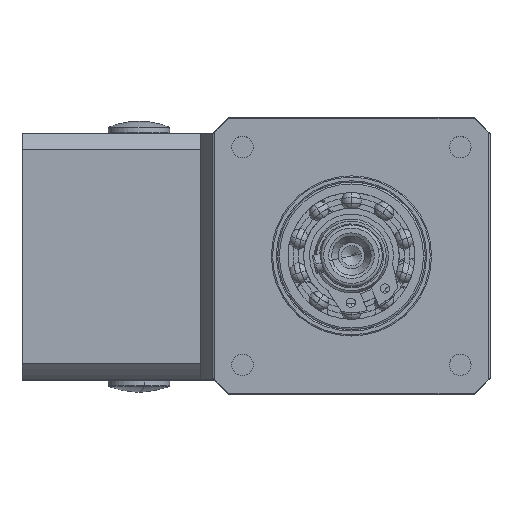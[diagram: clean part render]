
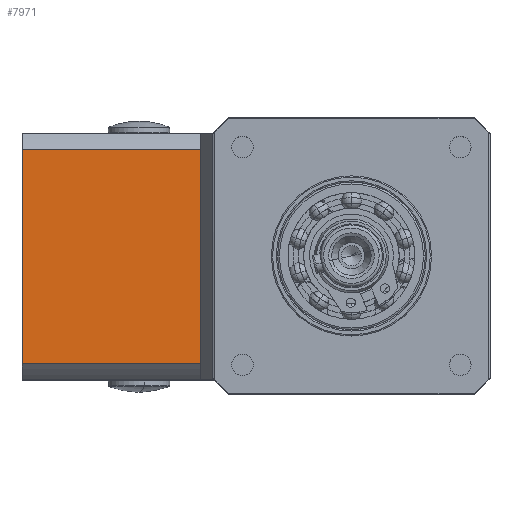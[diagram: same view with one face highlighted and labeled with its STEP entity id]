
A CAD part, top view. The second image highlights one B-rep face of the part: STEP entity #7971.
In plain terms, the highlighted planar face has unit normal (0, 0, 1).
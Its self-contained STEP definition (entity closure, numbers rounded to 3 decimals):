
#322 = DIRECTION ( 'NONE',  ( -1., 0., 0. ) ) ;
#1034 = DIRECTION ( 'NONE',  ( 0., 1., 0. ) ) ;
#1799 = CARTESIAN_POINT ( 'NONE',  ( -29.31, -3.523, -12.25 ) ) ;
#2077 = VECTOR ( 'NONE', #1034, 1000. ) ;
#2167 = EDGE_CURVE ( 'NONE', #6597, #35424, #13140, .T. ) ;
#3194 = ORIENTED_EDGE ( 'NONE', *, *, #27100, .F. ) ;
#3687 = EDGE_CURVE ( 'NONE', #35424, #49771, #15049, .T. ) ;
#6004 = EDGE_CURVE ( 'NONE', #17399, #49771, #24647, .T. ) ;
#6076 = DIRECTION ( 'NONE',  ( 0., 1., 0. ) ) ;
#6353 = PLANE ( 'NONE',  #49494 ) ;
#6597 = VERTEX_POINT ( 'NONE', #1799 ) ;
#7031 = DIRECTION ( 'NONE',  ( -1., 0., 0. ) ) ;
#7971 = ADVANCED_FACE ( 'NONE', ( #47871 ), #6353, .F. ) ;
#8653 = VECTOR ( 'NONE', #6076, 1000. ) ;
#13140 = LINE ( 'NONE', #17071, #2077 ) ;
#15049 = LINE ( 'NONE', #19955, #45124 ) ;
#17071 = CARTESIAN_POINT ( 'NONE',  ( -29.31, -6.138, -12.25 ) ) ;
#17399 = VERTEX_POINT ( 'NONE', #33854 ) ;
#19407 = CARTESIAN_POINT ( 'NONE',  ( -58.31, -6.138, -12.25 ) ) ;
#19955 = CARTESIAN_POINT ( 'NONE',  ( -29.31, 31.247, -12.25 ) ) ;
#24000 = CARTESIAN_POINT ( 'NONE',  ( -29.31, -3.523, -12.25 ) ) ;
#24647 = LINE ( 'NONE', #29279, #8653 ) ;
#26374 = CARTESIAN_POINT ( 'NONE',  ( -58.31, 31.247, -12.25 ) ) ;
#27100 = EDGE_CURVE ( 'NONE', #6597, #17399, #45542, .T. ) ;
#28721 = ORIENTED_EDGE ( 'NONE', *, *, #3687, .T. ) ;
#29279 = CARTESIAN_POINT ( 'NONE',  ( -58.31, -6.138, -12.25 ) ) ;
#33397 = EDGE_LOOP ( 'NONE', ( #3194, #40614, #28721, #46234 ) ) ;
#33854 = CARTESIAN_POINT ( 'NONE',  ( -58.31, -3.523, -12.25 ) ) ;
#35424 = VERTEX_POINT ( 'NONE', #45330 ) ;
#40614 = ORIENTED_EDGE ( 'NONE', *, *, #2167, .T. ) ;
#45124 = VECTOR ( 'NONE', #322, 1000. ) ;
#45330 = CARTESIAN_POINT ( 'NONE',  ( -29.31, 31.247, -12.25 ) ) ;
#45542 = LINE ( 'NONE', #24000, #46115 ) ;
#46115 = VECTOR ( 'NONE', #47864, 1000. ) ;
#46234 = ORIENTED_EDGE ( 'NONE', *, *, #6004, .F. ) ;
#46680 = DIRECTION ( 'NONE',  ( 0., 0., -1. ) ) ;
#47864 = DIRECTION ( 'NONE',  ( -1., 0., 0. ) ) ;
#47871 = FACE_OUTER_BOUND ( 'NONE', #33397, .T. ) ;
#49494 = AXIS2_PLACEMENT_3D ( 'NONE', #19407, #46680, #7031 ) ;
#49771 = VERTEX_POINT ( 'NONE', #26374 ) ;
